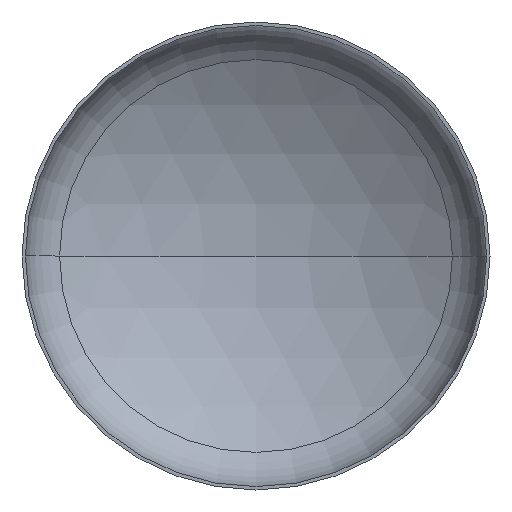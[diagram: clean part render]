
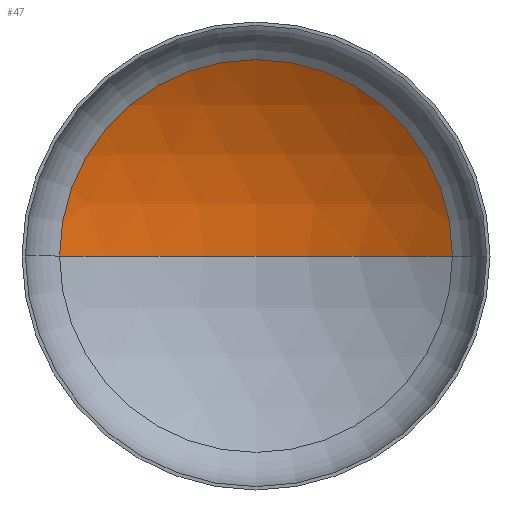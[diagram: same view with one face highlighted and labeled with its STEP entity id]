
A CAD part, front view. The second image highlights one B-rep face of the part: STEP entity #47.
In plain terms, the highlighted spherical face has radius 6400 mm.
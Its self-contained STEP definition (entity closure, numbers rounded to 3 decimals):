
#25 = EDGE_LOOP ( 'NONE', ( #341, #229, #296 ) ) ;
#27 = CARTESIAN_POINT ( 'NONE',  ( 3357.215, 1167.186, 0. ) ) ;
#28 = AXIS2_PLACEMENT_3D ( 'NONE', #142, #215, #405 ) ;
#30 = AXIS2_PLACEMENT_3D ( 'NONE', #262, #261, #174 ) ;
#33 = AXIS2_PLACEMENT_3D ( 'NONE', #285, #284, #281 ) ;
#43 = AXIS2_PLACEMENT_3D ( 'NONE', #249, #365, #207 ) ;
#47 = ADVANCED_FACE ( 'NONE', ( #227 ), #320, .F. ) ;
#58 = EDGE_CURVE ( 'NONE', #187, #80, #311, .T. ) ;
#61 = EDGE_CURVE ( 'NONE', #147, #187, #79, .T. ) ;
#64 = EDGE_CURVE ( 'NONE', #147, #80, #377, .T. ) ;
#79 = CIRCLE ( 'NONE', #30, 6400. ) ;
#80 = VERTEX_POINT ( 'NONE', #258 ) ;
#142 = CARTESIAN_POINT ( 'NONE',  ( 0., -4281.586, 0. ) ) ;
#147 = VERTEX_POINT ( 'NONE', #231 ) ;
#174 = DIRECTION ( 'NONE',  ( -1., 0., 0. ) ) ;
#187 = VERTEX_POINT ( 'NONE', #27 ) ;
#207 = DIRECTION ( 'NONE',  ( -1., 0., 0. ) ) ;
#215 = DIRECTION ( 'NONE',  ( 0., 0., 1. ) ) ;
#227 = FACE_OUTER_BOUND ( 'NONE', #25, .T. ) ;
#229 = ORIENTED_EDGE ( 'NONE', *, *, #61, .T. ) ;
#231 = CARTESIAN_POINT ( 'NONE',  ( 0., 2118.414, 0. ) ) ;
#249 = CARTESIAN_POINT ( 'NONE',  ( 0., -4281.586, 0. ) ) ;
#258 = CARTESIAN_POINT ( 'NONE',  ( -3357.215, 1167.186, 0. ) ) ;
#261 = DIRECTION ( 'NONE',  ( 0., 0., -1. ) ) ;
#262 = CARTESIAN_POINT ( 'NONE',  ( 0., -4281.586, 0. ) ) ;
#281 = DIRECTION ( 'NONE',  ( 1., 0., 0. ) ) ;
#284 = DIRECTION ( 'NONE',  ( 0., -1., 0. ) ) ;
#285 = CARTESIAN_POINT ( 'NONE',  ( 0., 1167.186, 0. ) ) ;
#296 = ORIENTED_EDGE ( 'NONE', *, *, #58, .T. ) ;
#311 = CIRCLE ( 'NONE', #33, 3357.215 ) ;
#320 = SPHERICAL_SURFACE ( 'NONE', #43, 6400. ) ;
#341 = ORIENTED_EDGE ( 'NONE', *, *, #64, .F. ) ;
#365 = DIRECTION ( 'NONE',  ( 0., 0., -1. ) ) ;
#377 = CIRCLE ( 'NONE', #28, 6400. ) ;
#405 = DIRECTION ( 'NONE',  ( 1., 0., 0. ) ) ;
